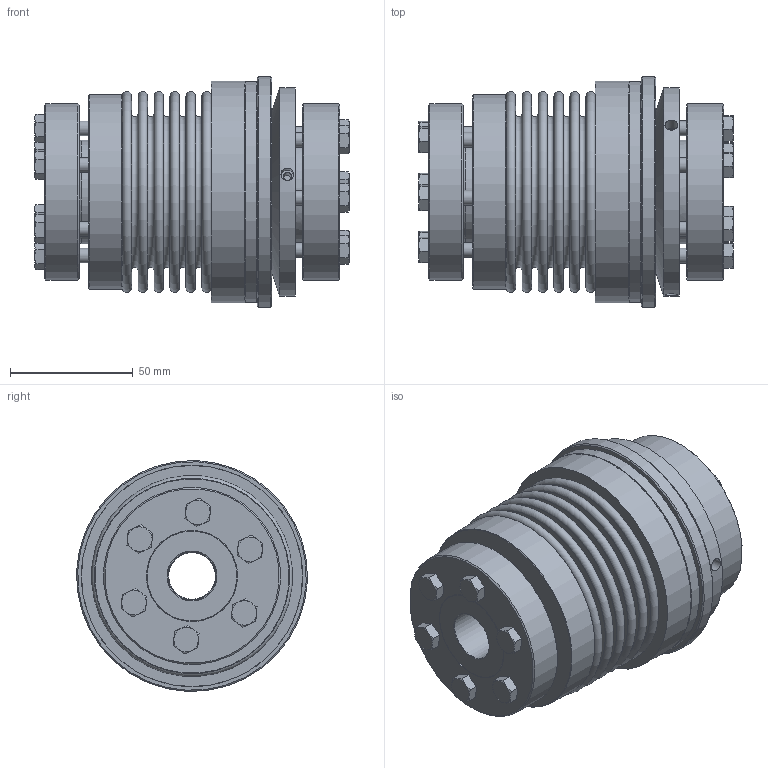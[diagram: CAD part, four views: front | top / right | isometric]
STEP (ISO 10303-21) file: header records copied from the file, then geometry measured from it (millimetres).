
FILE_DESCRIPTION( ( 'Unknown' ), '1' );
FILE_NAME( 'K:/Konstruktion/Korrigierte 3D Modelle/KBK-B-AA/KBK-BAA-150-129.stp', 'Unknown', ( 'Unknown' ), ( 'Unknown' ), 'PSStep 16.0.42', 'Unknown', ' ' );
FILE_SCHEMA( ( 'AUTOMOTIVE_DESIGN { 1 0 10303 214 1 1 1 1 }' ) );
Length unit declared in the file: millimetre
Products named in the file (18): Druckring 80_0; din_en_24017_m6x25_0; Stellring 80_0; KBK L-A-80 Grundkörper_0; Druckring L-A-80_0; BA6-150; BA80-150_Standard; Hex Screw GradeC_DIN_ISO 4018 - M6 x 30-NN; DR80-150_Standard; A-150; Assem1; BL80-150_Standard_3; Flansch BK150
Assembly tree (27 placements, depth 4):
  Assem1
    BL80-150_Standard_3
    Flansch BK150
    BA6-150
      BA80-150_Standard
      Hex Screw GradeC_DIN_ISO 4018 - M6 x 30-NN  x6
      DR80-150_Standard
    A-150
      Stellring 80_0
        Stellring 80_0
      Druckring 80_0
        Druckring 80_0
      KBK L-A-80 Grundkörper_0
        KBK L-A-80 Grundkörper_0
      din_en_24017_m6x25_0  x6
        din_en_24017_m6x25_0
      Druckring L-A-80_0
        Druckring L-A-80_0
Bounding box: 127.9 x 93.88 x 93.88 mm (x, y, z)
Volume: 391471.7 mm3; surface area: 180620.9 mm2
Topology: 20 solids, 20 shells, 426 faces, 882 edges, 561 vertices
Faces by surface type: plane 195, cone 125, cylinder 76, torus 30
Full cylindrical faces by diameter (mm): 3.242 x3, 4.917 x6, 5 x10, 5.2 x3, 6 x12, 6.6 x12, 8.8 x6, 19 x1, 20 x1, 37.5 x1, 40 x2, 42.29 x2, 48 x1, 52 x1, 62 x2, 70 x1, 70.7 x2, 71.9 x2, 72 x2, 79.5 x1, 85 x1, 87 x1, 90 x2, 94 x1
Entity records: 8106 total; most frequent: CARTESIAN_POINT 1350, DIRECTION 1054, ORIENTED_EDGE 646, AXIS2_PLACEMENT_3D 503, EDGE_LOOP 452, EDGE_CURVE 323, FACE_OUTER_BOUND 317, VERTEX_POINT 287
